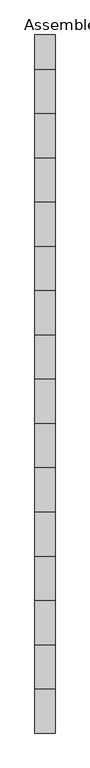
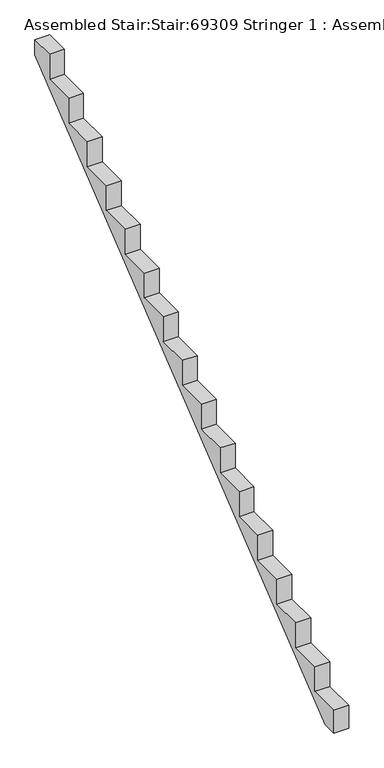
"""IFC4 building model written with IfcOpenShell, lengths in millimetres: stair geometry, Assembled Stair:Stair:69309 Stringer 1 : Assembled Stair:Stair:69309 Stringer 1."""

from ifc_helpers import new_model, si_unit, frame, origin, place, context, project, spatial, polyline, outline, extrude, source, transform, mapped, element, save


def assembled_stair_stair_69309_stringer_1_assembled_stair_stair_9f351917(model_context):
    return source(origin(), model_context, "Body", "SweptSolid", [
        extrude(outline(polyline([(-27974.6322236, 2808.5294118), (-27804.6322236, 2808.5294118), (-27804.6322236, 2704.3243508), (-31176.0232476, 0.0), (-31274.6322236, 0.0), (-31274.6322236, 161.4705882), (-31054.6322236, 161.4705882), (-31054.6322236, 337.9411765), (-30834.6322236, 337.9411765), (-30834.6322236, 514.4117647), (-30614.6322236, 514.4117647), (-30614.6322236, 690.8823529), (-30394.6322236, 690.8823529), (-30394.6322236, 867.3529412), (-30174.6322236, 867.3529412), (-30174.6322236, 1043.8235294), (-29954.6322236, 1043.8235294), (-29954.6322236, 1220.2941176), (-29734.6322236, 1220.2941176), (-29734.6322236, 1396.7647059), (-29514.6322236, 1396.7647059), (-29514.6322236, 1573.2352941), (-29294.6322236, 1573.2352941), (-29294.6322236, 1749.7058824), (-29074.6322236, 1749.7058824), (-29074.6322236, 1926.1764706), (-28854.6322236, 1926.1764706), (-28854.6322236, 2102.6470588), (-28634.6322236, 2102.6470588), (-28634.6322236, 2279.1176471), (-28414.6322236, 2279.1176471), (-28414.6322236, 2455.5882353), (-28194.6322236, 2455.5882353), (-28194.6322236, 2632.0588235), (-27974.6322236, 2632.0588235), (-27974.6322236, 2808.5294118)])), frame((19724.8089026, 0.0, 0.0), z_axis=(1.0, 0.0, 0.0), x_axis=(0.0, 1.0, 0.0)), (0.0, 0.0, 1.0), 100.0),
    ])


if __name__ == "__main__":
    model = new_model("IFC4")
    model_context = context("Model", 3, world=origin())
    ifc_project = project(units=[si_unit("LENGTHUNIT", "METRE", prefix="MILLI")], contexts=[model_context])
    site = spatial("IfcSite", under=ifc_project)
    building = spatial("IfcBuilding", under=site)
    placement = place(None, origin())
    assembled_stair_stair_69309_stringer_1_assembled_stair_stair_shape = assembled_stair_stair_69309_stringer_1_assembled_stair_stair_9f351917(model_context)
    element("IfcStair", 1, ObjectType="Assembled Stair:Stair:69309 Stringer 1 : Assembled Stair:Stair:69309 Stringer 1", at=placement, inside=building, context=model_context, shape_type="MappedRepresentation", body=[
        mapped(assembled_stair_stair_69309_stringer_1_assembled_stair_stair_shape, transform((0.0, 0.0, 0.0), x_axis=(1.0, 0.0, 0.0), y_axis=(0.0, 1.0, 0.0), z_axis=(0.0, 0.0, 1.0))),
    ])
    save(model, "model.ifc")
